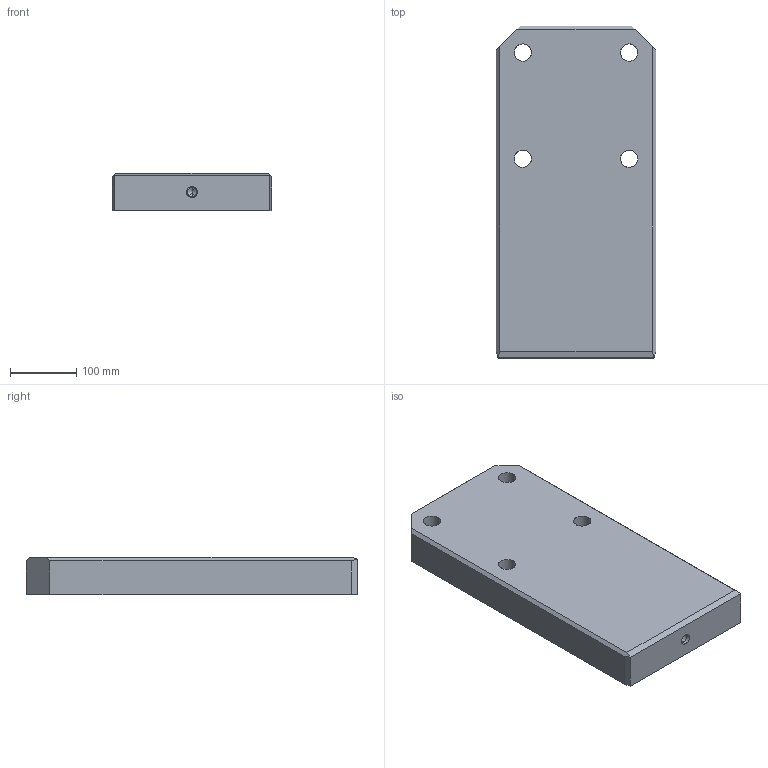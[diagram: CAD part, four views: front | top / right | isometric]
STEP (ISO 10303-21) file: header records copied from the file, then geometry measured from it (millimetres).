
FILE_DESCRIPTION(('CATIA V5 STEP Exchange'),'2;1');
FILE_NAME('C:\Users\borellobunino\Desktop\3D X SITO CF\A927\GSB_OILLESS_G2290524050056\STEP-2.03\A927-240X500X56.stp','2019-07-15T20:02:48+00:00',('none'),('none'),'CATIA Version 5 Release 20 GA (IN-10)','CATIA V5 STEP AP203','none');
FILE_SCHEMA(('CONFIG_CONTROL_DESIGN'));
Length unit declared in the file: millimetre
Products named in the file (1): A927-240X500X56
Bounding box: 240 x 500 x 56 mm (x, y, z)
Volume: 6411869.1 mm3; surface area: 334873.8 mm2
Topology: 1 solids, 1 shells, 52 faces, 134 edges, 89 vertices
Faces by surface type: cylinder 22, plane 20, cone 10
Entity records: 2048 total; most frequent: CARTESIAN_POINT 784, ORIENTED_EDGE 264, DIRECTION 206, EDGE_CURVE 132, VERTEX_POINT 89, AXIS2_PLACEMENT_3D 87, VECTOR 68, LINE 68
